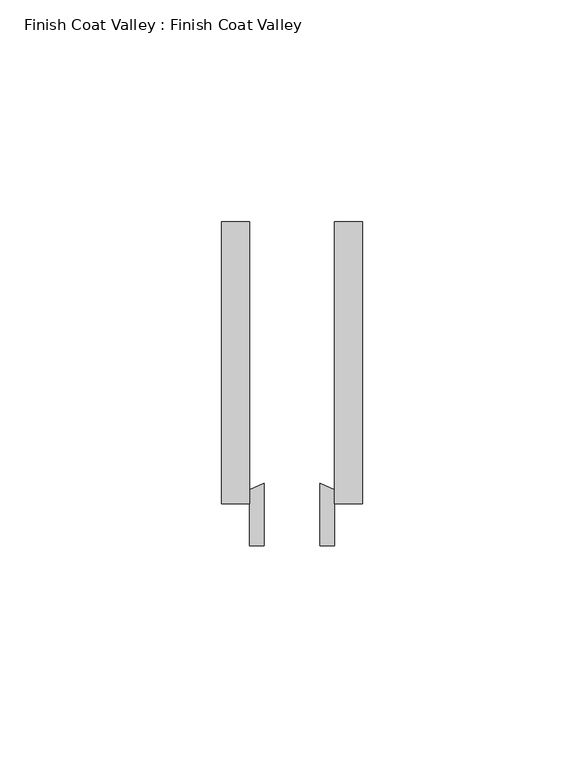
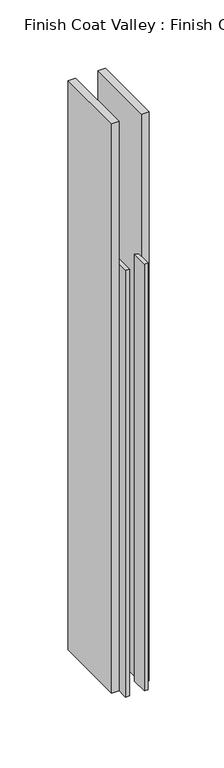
"""IFC4 building model written with IfcOpenShell, lengths in millimetres: proxy geometry, Finish Coat Valley : Finish Coat Valley."""

from ifc_helpers import new_model, si_unit, point, frame_2d, origin, origin_with_axes, place, context, project, spatial, polyline, circle_curve, trimmed, segment, composite_curve, outline, extrude, source, transform, mapped, element, save


def finish_coat_valley_finish_coat_valley_bc799e07(model_context):
    return source(origin(), model_context, "Body", "SweptSolid", [
        extrude(outline(polyline([(26834.4539273, 548.2566297), (26834.4539273, 611.7566297), (26840.8039273, 611.7566297), (26840.8039273, 548.2566297), (26834.4539273, 548.2566297)])), origin_with_axes(), (0.0, 0.0, 1.0), 508.0),
        extrude(outline(polyline([(26815.4039273, 611.7566297), (26815.4039273, 548.2566297), (26809.0539273, 548.2566297), (26809.0539273, 611.7566297), (26815.4039273, 611.7566297)])), origin_with_axes(), (0.0, 0.0, 1.0), 508.0),
        extrude(outline(composite_curve([segment(trimmed(circle_curve(frame_2d((26824.9289273, 534.9338457)), 19.05), [point((26815.4039273, 551.4316297))], [point((26818.5789273, 552.894358))], False, "CARTESIAN"), True, "CONTINUOUS"), segment(polyline([(26818.5789273, 552.894358), (26818.5789273, 538.7316297), (26815.4039273, 538.7316297), (26815.4039273, 551.4316297)]), True, "CONTINUOUS")], self_intersect=False)), origin_with_axes(), (0.0, 0.0, 1.0), 381.0),
        extrude(outline(composite_curve([segment(polyline([(26834.4539273, 538.7316297), (26831.2789273, 538.7316297), (26831.2789273, 552.894358)]), True, "CONTINUOUS"), segment(trimmed(circle_curve(frame_2d((26824.9289273, 534.9338457)), 19.05), [point((26831.2789273, 552.894358))], [point((26834.4539273, 551.4316297))], False, "CARTESIAN"), True, "CONTINUOUS"), segment(polyline([(26834.4539273, 551.4316297), (26834.4539273, 538.7316297)]), True, "CONTINUOUS")], self_intersect=False)), origin_with_axes(), (0.0, 0.0, 1.0), 381.0),
    ])


if __name__ == "__main__":
    model = new_model("IFC4")
    model_context = context("Model", 3, world=origin())
    ifc_project = project(units=[si_unit("LENGTHUNIT", "METRE", prefix="MILLI")], contexts=[model_context])
    site = spatial("IfcSite", under=ifc_project)
    building = spatial("IfcBuilding", under=site)
    placement = place(None, origin())
    finish_coat_valley_finish_coat_valley_shape = finish_coat_valley_finish_coat_valley_bc799e07(model_context)
    element("IfcBuildingElementProxy", 1, Name="Finish Coat Valley : Finish Coat Valley", ObjectType="Finish Coat Valley : Finish Coat Valley", at=placement, inside=building, context=model_context, shape_type="MappedRepresentation", body=[
        mapped(finish_coat_valley_finish_coat_valley_shape, transform((0.0, 0.0, 0.0), x_axis=(1.0, 0.0, 0.0), y_axis=(0.0, 1.0, 0.0), z_axis=(0.0, 0.0, 1.0))),
    ])
    save(model, "model.ifc")
